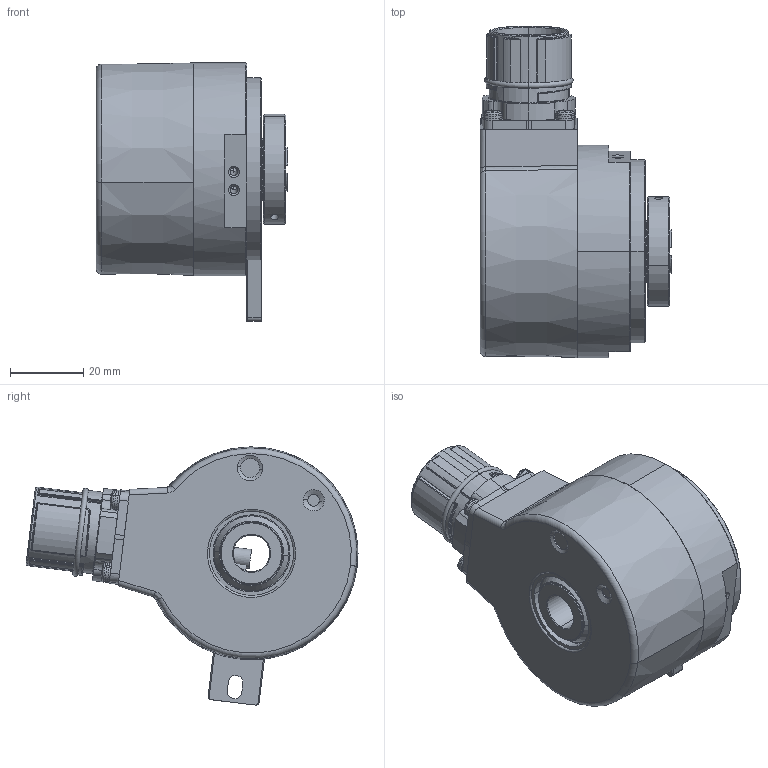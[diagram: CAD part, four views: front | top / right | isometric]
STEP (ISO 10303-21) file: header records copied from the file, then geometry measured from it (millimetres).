
FILE_DESCRIPTION (( 'STEP AP203' ), '1' );
FILE_NAME ('8.5834.13X2.XXXX.STEP', '2013-11-22T06:58:16', ( 'HeirlerN' ), ( 'Microsoft' ), 'SwSTEP 2.0', 'SolidWorks 2013', '' );
FILE_SCHEMA (( 'CONFIG_CONTROL_DESIGN' ));
Length unit declared in the file: millimetre
Products named in the file (1): 8.5834.13X2.XXXX
Bounding box: 52.2 x 90.43 x 70.33 mm (x, y, z)
Volume: 82451.8 mm3; surface area: 53983.9 mm2
Topology: 34 solids, 35 shells, 1606 faces, 3862 edges, 2343 vertices
Faces by surface type: cylinder 621, plane 439, cone 250, torus 137, sphere 100, bspline 59
Entity records: 49447 total; most frequent: CARTESIAN_POINT 12164, DIRECTION 8349, ORIENTED_EDGE 7412, EDGE_CURVE 3706, AXIS2_PLACEMENT_3D 3471, VERTEX_POINT 2299, CIRCLE 1923, EDGE_LOOP 1837
